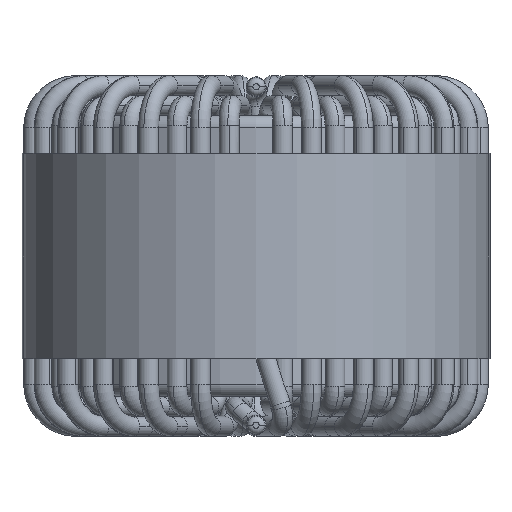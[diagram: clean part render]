
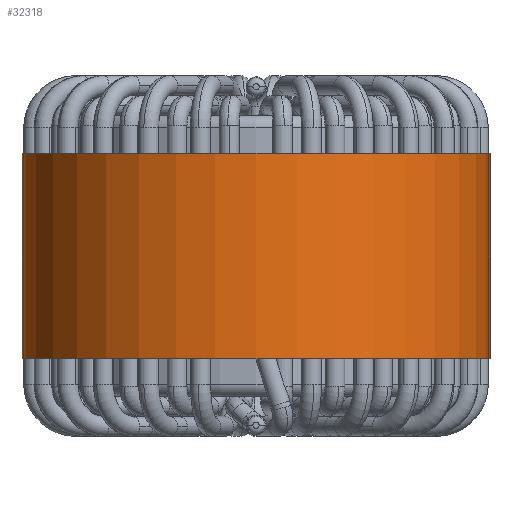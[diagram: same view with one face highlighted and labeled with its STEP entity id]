
A CAD part, front view. The second image highlights one B-rep face of the part: STEP entity #32318.
In plain terms, the highlighted cylindrical face has radius 19.325 mm (diameter 38.65 mm), a partial arc.
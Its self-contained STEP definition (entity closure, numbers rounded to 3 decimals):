
#108 = VECTOR ( 'NONE', #41076, 1000. ) ;
#5453 = EDGE_CURVE ( 'NONE', #7487, #37698, #32490, .T. ) ;
#6603 = AXIS2_PLACEMENT_3D ( 'NONE', #16711, #58043, #40071 ) ;
#7487 = VERTEX_POINT ( 'NONE', #28805 ) ;
#7491 = EDGE_LOOP ( 'NONE', ( #31317, #44916, #23547, #10728 ) ) ;
#7629 = CARTESIAN_POINT ( 'NONE',  ( -19.325, 0., -8.5 ) ) ;
#8349 = DIRECTION ( 'NONE',  ( 0., 0., -1. ) ) ;
#10728 = ORIENTED_EDGE ( 'NONE', *, *, #23664, .T. ) ;
#16711 = CARTESIAN_POINT ( 'NONE',  ( 0., 0., -8.5 ) ) ;
#17755 = CIRCLE ( 'NONE', #6603, 19.325 ) ;
#17952 = VECTOR ( 'NONE', #53121, 1000. ) ;
#18852 = AXIS2_PLACEMENT_3D ( 'NONE', #36751, #41446, #32514 ) ;
#19439 = LINE ( 'NONE', #34301, #17952 ) ;
#23194 = VERTEX_POINT ( 'NONE', #31610 ) ;
#23547 = ORIENTED_EDGE ( 'NONE', *, *, #54147, .T. ) ;
#23664 = EDGE_CURVE ( 'NONE', #39830, #23194, #17755, .T. ) ;
#24689 = LINE ( 'NONE', #55004, #108 ) ;
#28805 = CARTESIAN_POINT ( 'NONE',  ( -19.325, 0., 8.5 ) ) ;
#31317 = ORIENTED_EDGE ( 'NONE', *, *, #58796, .F. ) ;
#31610 = CARTESIAN_POINT ( 'NONE',  ( 19.325, 0., -8.5 ) ) ;
#32318 = ADVANCED_FACE ( 'NONE', ( #37218 ), #45180, .T. ) ;
#32490 = CIRCLE ( 'NONE', #18852, 19.325 ) ;
#32514 = DIRECTION ( 'NONE',  ( 1., 0., 0. ) ) ;
#34301 = CARTESIAN_POINT ( 'NONE',  ( 19.325, 0., 8.5 ) ) ;
#36180 = CARTESIAN_POINT ( 'NONE',  ( 19.325, 0., 8.5 ) ) ;
#36751 = CARTESIAN_POINT ( 'NONE',  ( 0., 0., 8.5 ) ) ;
#37218 = FACE_OUTER_BOUND ( 'NONE', #7491, .T. ) ;
#37698 = VERTEX_POINT ( 'NONE', #36180 ) ;
#39830 = VERTEX_POINT ( 'NONE', #7629 ) ;
#40071 = DIRECTION ( 'NONE',  ( 1., 0., 0. ) ) ;
#40377 = AXIS2_PLACEMENT_3D ( 'NONE', #45842, #8349, #40615 ) ;
#40615 = DIRECTION ( 'NONE',  ( -1., 0., 0. ) ) ;
#41076 = DIRECTION ( 'NONE',  ( 0., 0., -1. ) ) ;
#41446 = DIRECTION ( 'NONE',  ( 0., 0., 1. ) ) ;
#44916 = ORIENTED_EDGE ( 'NONE', *, *, #5453, .F. ) ;
#45180 = CYLINDRICAL_SURFACE ( 'NONE', #40377, 19.325 ) ;
#45842 = CARTESIAN_POINT ( 'NONE',  ( 0., 0., 8.5 ) ) ;
#53121 = DIRECTION ( 'NONE',  ( 0., 0., -1. ) ) ;
#54147 = EDGE_CURVE ( 'NONE', #7487, #39830, #24689, .T. ) ;
#55004 = CARTESIAN_POINT ( 'NONE',  ( -19.325, 0., 8.5 ) ) ;
#58043 = DIRECTION ( 'NONE',  ( 0., 0., 1. ) ) ;
#58796 = EDGE_CURVE ( 'NONE', #37698, #23194, #19439, .T. ) ;
